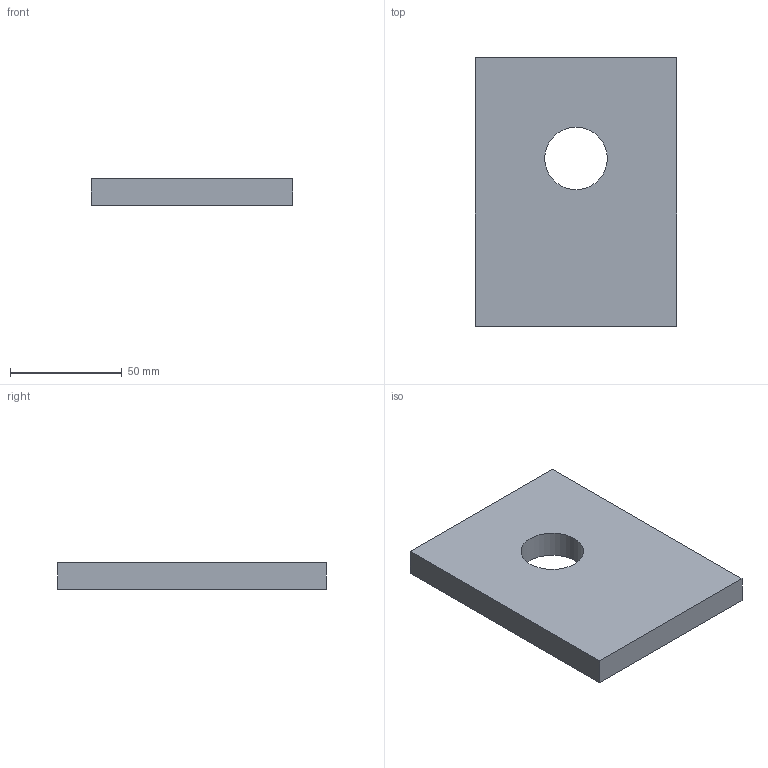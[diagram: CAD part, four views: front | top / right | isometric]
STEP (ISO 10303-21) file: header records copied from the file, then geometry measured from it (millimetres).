
FILE_DESCRIPTION(('Open CASCADE Model'),'2;1');
FILE_NAME('Open CASCADE Shape Model','2026-10-15T15:10:04',('Author'),( 'Open CASCADE'),'Open CASCADE STEP processor 8.0','Open CASCADE 8.0' ,'Unknown');
FILE_SCHEMA(('AUTOMOTIVE_DESIGN { 1 0 10303 214 1 1 1 1 }'));
Length unit declared in the file: millimetre
Products named in the file (1): OREJA_EXTREMA_90x120x12 80
Bounding box: 90 x 120 x 12 mm (x, y, z)
Volume: 122211 mm3; surface area: 26464.1 mm2
Topology: 1 solids, 1 shells, 7 faces, 15 edges, 10 vertices
Faces by surface type: plane 6, cylinder 1
Full cylindrical faces by diameter (mm): 28 x1
Entity records: 400 total; most frequent: CARTESIAN_POINT 63, DIRECTION 63, LINE 41, VECTOR 41, ORIENTED_EDGE 30, PCURVE 30, DEFINITIONAL_REPRESENTATION 30, EDGE_CURVE 15
